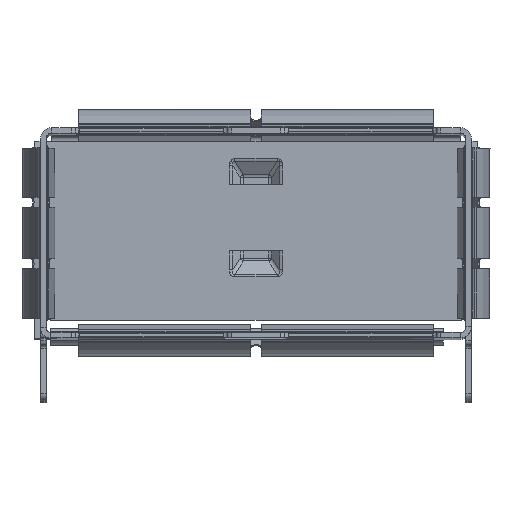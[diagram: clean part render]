
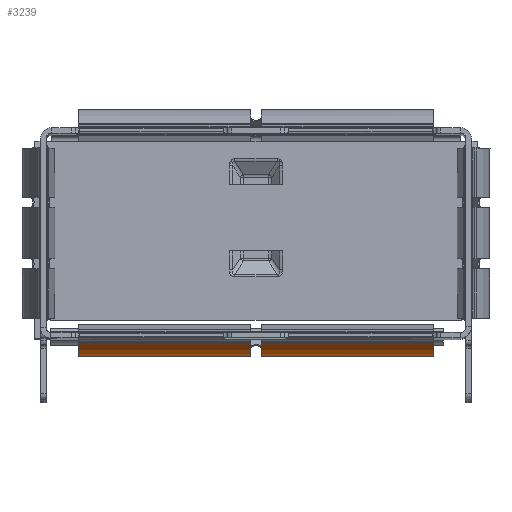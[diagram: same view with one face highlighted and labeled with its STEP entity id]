
A CAD part, top view. The second image highlights one B-rep face of the part: STEP entity #3239.
In plain terms, the highlighted cylindrical face has radius 4.15 mm (diameter 8.3 mm), a partial arc.
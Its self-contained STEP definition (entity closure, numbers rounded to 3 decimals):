
#484=CYLINDRICAL_SURFACE('',#30349,4.15);
#1618=FACE_OUTER_BOUND('',#7168,.T.);
#3239=ADVANCED_FACE('',(#1618),#484,.T.);
#5718=CIRCLE('',#30341,4.15);
#5719=CIRCLE('',#30343,4.15);
#5720=CIRCLE('',#30345,4.15);
#5721=CIRCLE('',#30347,4.15);
#7168=EDGE_LOOP('',(#12822,#12823,#12824,#12825,#12826,#12827,#12828,#12829,
#12830,#12831));
#8003=B_SPLINE_CURVE_WITH_KNOTS('',3,(#46339,#46340,#46341,#46342,#46343,
#46344,#46345,#46346,#46347,#46348,#46349,#46350,#46351,#46352,#46353,#46354),
 .UNSPECIFIED.,.F.,.F.,(4,3,3,3,3,4),(0.,0.215,0.43,
0.644,0.859,1.),.UNSPECIFIED.);
#8004=B_SPLINE_CURVE_WITH_KNOTS('',3,(#46358,#46359,#46360,#46361,#46362,
#46363,#46364,#46365,#46366,#46367,#46368,#46369,#46370,#46371,#46372,#46373),
 .UNSPECIFIED.,.F.,.F.,(4,3,3,3,3,4),(0.,0.215,0.43,
0.645,0.859,1.),.UNSPECIFIED.);
#8022=B_SPLINE_CURVE_WITH_KNOTS('',3,(#47117,#47118,#47119,#47120,#47121,
#47122,#47123,#47124,#47125,#47126,#47127,#47128,#47129,#47130,#47131,#47132,
#47133,#47134,#47135,#47136,#47137,#47138,#47139,#47140,#47141,#47142,#47143,
#47144),.UNSPECIFIED.,.F.,.F.,(4,3,3,3,3,3,3,3,3,4),(0.,0.141,
0.248,0.354,0.465,0.595,
0.685,0.777,0.888,1.),.UNSPECIFIED.);
#12822=ORIENTED_EDGE('',*,*,#21601,.F.);
#12823=ORIENTED_EDGE('',*,*,#21595,.F.);
#12824=ORIENTED_EDGE('',*,*,#21600,.F.);
#12825=ORIENTED_EDGE('',*,*,#21456,.T.);
#12826=ORIENTED_EDGE('',*,*,#21606,.F.);
#12827=ORIENTED_EDGE('',*,*,#21458,.T.);
#12828=ORIENTED_EDGE('',*,*,#21599,.F.);
#12829=ORIENTED_EDGE('',*,*,#21587,.F.);
#12830=ORIENTED_EDGE('',*,*,#21605,.F.);
#12831=ORIENTED_EDGE('',*,*,#21603,.F.);
#18078=VERTEX_POINT('',#46338);
#18079=VERTEX_POINT('',#46355);
#18080=VERTEX_POINT('',#46374);
#18081=VERTEX_POINT('',#46375);
#18147=VERTEX_POINT('',#47079);
#18148=VERTEX_POINT('',#47084);
#18149=VERTEX_POINT('',#47088);
#18150=VERTEX_POINT('',#47096);
#18151=VERTEX_POINT('',#47111);
#18152=VERTEX_POINT('',#47145);
#21456=EDGE_CURVE('',#18079,#18078,#8003,.T.);
#21458=EDGE_CURVE('',#18080,#18081,#8004,.T.);
#21587=EDGE_CURVE('',#18148,#18147,#24834,.T.);
#21595=EDGE_CURVE('',#18149,#18150,#24838,.T.);
#21599=EDGE_CURVE('',#18147,#18081,#5718,.T.);
#21600=EDGE_CURVE('',#18079,#18149,#5719,.T.);
#21601=EDGE_CURVE('',#18150,#18151,#5720,.T.);
#21603=EDGE_CURVE('',#18151,#18152,#8022,.T.);
#21605=EDGE_CURVE('',#18152,#18148,#5721,.T.);
#21606=EDGE_CURVE('',#18080,#18078,#24841,.T.);
#24834=LINE('',#47085,#27589);
#24838=LINE('',#47099,#27593);
#24841=LINE('',#47204,#27596);
#27589=VECTOR('',#36515,1.);
#27593=VECTOR('',#36535,1.);
#27596=VECTOR('',#36562,1.);
#30341=AXIS2_PLACEMENT_3D('',#47106,#36546,#36547);
#30343=AXIS2_PLACEMENT_3D('',#47108,#36550,#36551);
#30345=AXIS2_PLACEMENT_3D('',#47110,#36554,#36555);
#30347=AXIS2_PLACEMENT_3D('',#47202,#36558,#36559);
#30349=AXIS2_PLACEMENT_3D('',#47205,#36563,#36564);
#36515=DIRECTION('',(1.,0.,0.));
#36535=DIRECTION('',(1.,0.,0.));
#36546=DIRECTION('',(1.,0.,0.));
#36547=DIRECTION('',(0.,0.,-1.));
#36550=DIRECTION('',(-1.,0.,0.));
#36551=DIRECTION('',(0.,0.,-1.));
#36554=DIRECTION('',(1.,0.,0.));
#36555=DIRECTION('',(0.,0.,-1.));
#36558=DIRECTION('',(-1.,0.,0.));
#36559=DIRECTION('',(0.,0.,-1.));
#36562=DIRECTION('',(-1.,0.,0.));
#36563=DIRECTION('',(-1.,0.,0.));
#36564=DIRECTION('',(0.,0.,-1.));
#46338=CARTESIAN_POINT('',(-7.725,-9.4,41.304));
#46339=CARTESIAN_POINT('',(-7.925,-9.516,41.466));
#46340=CARTESIAN_POINT('',(-7.925,-9.504,41.448));
#46341=CARTESIAN_POINT('',(-7.921,-9.491,41.429));
#46342=CARTESIAN_POINT('',(-7.914,-9.479,41.412));
#46343=CARTESIAN_POINT('',(-7.906,-9.467,41.395));
#46344=CARTESIAN_POINT('',(-7.895,-9.455,41.378));
#46345=CARTESIAN_POINT('',(-7.881,-9.445,41.364));
#46346=CARTESIAN_POINT('',(-7.867,-9.434,41.35));
#46347=CARTESIAN_POINT('',(-7.85,-9.425,41.338));
#46348=CARTESIAN_POINT('',(-7.831,-9.418,41.328));
#46349=CARTESIAN_POINT('',(-7.812,-9.411,41.318));
#46350=CARTESIAN_POINT('',(-7.791,-9.406,41.311));
#46351=CARTESIAN_POINT('',(-7.769,-9.403,41.307));
#46352=CARTESIAN_POINT('',(-7.755,-9.401,41.305));
#46353=CARTESIAN_POINT('',(-7.74,-9.4,41.304));
#46354=CARTESIAN_POINT('',(-7.725,-9.4,41.304));
#46355=CARTESIAN_POINT('',(-7.925,-9.516,41.466));
#46358=CARTESIAN_POINT('',(7.725,-9.4,41.304));
#46359=CARTESIAN_POINT('',(7.747,-9.4,41.304));
#46360=CARTESIAN_POINT('',(7.77,-9.402,41.307));
#46361=CARTESIAN_POINT('',(7.791,-9.407,41.313));
#46362=CARTESIAN_POINT('',(7.812,-9.411,41.319));
#46363=CARTESIAN_POINT('',(7.832,-9.418,41.327));
#46364=CARTESIAN_POINT('',(7.85,-9.426,41.339));
#46365=CARTESIAN_POINT('',(7.867,-9.434,41.35));
#46366=CARTESIAN_POINT('',(7.883,-9.445,41.364));
#46367=CARTESIAN_POINT('',(7.895,-9.456,41.379));
#46368=CARTESIAN_POINT('',(7.906,-9.467,41.395));
#46369=CARTESIAN_POINT('',(7.915,-9.479,41.412));
#46370=CARTESIAN_POINT('',(7.92,-9.492,41.43));
#46371=CARTESIAN_POINT('',(7.923,-9.5,41.442));
#46372=CARTESIAN_POINT('',(7.925,-9.508,41.454));
#46373=CARTESIAN_POINT('',(7.925,-9.516,41.466));
#46374=CARTESIAN_POINT('',(7.725,-9.4,41.304));
#46375=CARTESIAN_POINT('',(7.925,-9.516,41.466));
#47079=CARTESIAN_POINT('',(7.925,-9.603,46.001));
#47084=CARTESIAN_POINT('',(0.225,-9.603,46.001));
#47085=CARTESIAN_POINT('',(-7.925,-9.603,46.001));
#47088=CARTESIAN_POINT('',(-7.925,-9.603,46.001));
#47096=CARTESIAN_POINT('',(-0.225,-9.603,46.001));
#47099=CARTESIAN_POINT('',(-7.925,-9.603,46.001));
#47106=CARTESIAN_POINT('',(7.925,-6.085,43.8));
#47108=CARTESIAN_POINT('',(-7.925,-6.085,43.8));
#47110=CARTESIAN_POINT('',(-0.225,-6.085,43.8));
#47111=CARTESIAN_POINT('',(-0.225,-9.843,42.04));
#47117=CARTESIAN_POINT('',(-0.225,-9.843,42.04));
#47118=CARTESIAN_POINT('',(-0.223,-9.829,42.011));
#47119=CARTESIAN_POINT('',(-0.216,-9.815,41.98));
#47120=CARTESIAN_POINT('',(-0.203,-9.801,41.953));
#47121=CARTESIAN_POINT('',(-0.193,-9.791,41.933));
#47122=CARTESIAN_POINT('',(-0.178,-9.782,41.914));
#47123=CARTESIAN_POINT('',(-0.16,-9.773,41.898));
#47124=CARTESIAN_POINT('',(-0.143,-9.765,41.882));
#47125=CARTESIAN_POINT('',(-0.123,-9.758,41.868));
#47126=CARTESIAN_POINT('',(-0.1,-9.752,41.858));
#47127=CARTESIAN_POINT('',(-0.077,-9.747,41.847));
#47128=CARTESIAN_POINT('',(-0.051,-9.743,41.841));
#47129=CARTESIAN_POINT('',(-0.025,-9.742,41.839));
#47130=CARTESIAN_POINT('',(0.006,-9.741,41.836));
#47131=CARTESIAN_POINT('',(0.037,-9.742,41.838));
#47132=CARTESIAN_POINT('',(0.067,-9.746,41.845));
#47133=CARTESIAN_POINT('',(0.088,-9.748,41.85));
#47134=CARTESIAN_POINT('',(0.108,-9.752,41.857));
#47135=CARTESIAN_POINT('',(0.126,-9.758,41.868));
#47136=CARTESIAN_POINT('',(0.144,-9.763,41.878));
#47137=CARTESIAN_POINT('',(0.16,-9.77,41.892));
#47138=CARTESIAN_POINT('',(0.173,-9.778,41.907));
#47139=CARTESIAN_POINT('',(0.188,-9.788,41.926));
#47140=CARTESIAN_POINT('',(0.2,-9.799,41.948));
#47141=CARTESIAN_POINT('',(0.208,-9.81,41.97));
#47142=CARTESIAN_POINT('',(0.217,-9.821,41.993));
#47143=CARTESIAN_POINT('',(0.222,-9.832,42.017));
#47144=CARTESIAN_POINT('',(0.225,-9.843,42.04));
#47145=CARTESIAN_POINT('',(0.225,-9.843,42.04));
#47202=CARTESIAN_POINT('',(0.225,-6.085,43.8));
#47204=CARTESIAN_POINT('',(23.45,-9.4,41.304));
#47205=CARTESIAN_POINT('',(23.45,-6.085,43.8));
